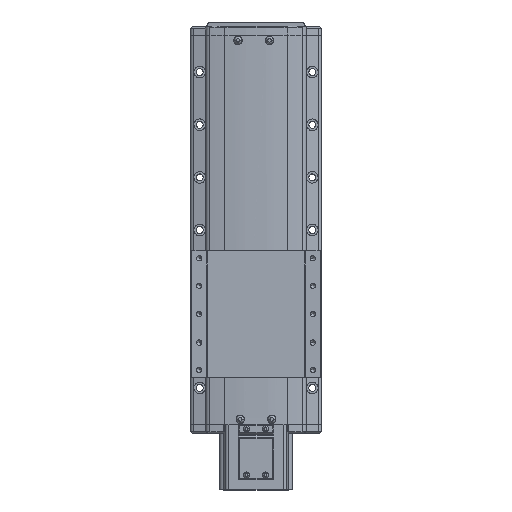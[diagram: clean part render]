
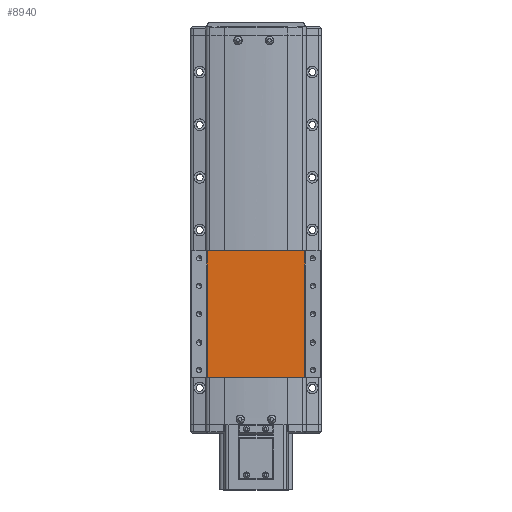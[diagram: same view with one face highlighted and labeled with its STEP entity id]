
A CAD part, top view. The second image highlights one B-rep face of the part: STEP entity #8940.
In plain terms, the highlighted planar face has unit normal (0, 0, 1).
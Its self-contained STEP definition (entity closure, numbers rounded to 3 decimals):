
#8940=ADVANCED_FACE('',(#18373),#18374,.F.);
#18373=FACE_OUTER_BOUND('',#30039,.T.);
#18374=PLANE('',#30040);
#30039=EDGE_LOOP('',(#56498,#56499,#56500,#56501));
#30040=AXIS2_PLACEMENT_3D('',#56502,#56503,#56504);
#56498=ORIENTED_EDGE('',*,*,#62130,.F.);
#56499=ORIENTED_EDGE('',*,*,#64181,.F.);
#56500=ORIENTED_EDGE('',*,*,#66803,.F.);
#56501=ORIENTED_EDGE('',*,*,#69042,.T.);
#56502=CARTESIAN_POINT('',(-300.,-7.778,36.5));
#56503=DIRECTION('',(0.,0.,-1.0));
#56504=DIRECTION('',(-1.0,0.,0.));
#62130=EDGE_CURVE('',#75009,#75011,#75012,.T.);
#64181=EDGE_CURVE('',#78294,#75009,#78296,.T.);
#66803=EDGE_CURVE('',#82086,#78294,#82088,.T.);
#69042=EDGE_CURVE('',#82086,#75011,#84864,.T.);
#75009=VERTEX_POINT('',#92786);
#75011=VERTEX_POINT('',#92788);
#75012=LINE('',#92789,#92790);
#78294=VERTEX_POINT('',#97547);
#78296=LINE('',#97549,#97550);
#82086=VERTEX_POINT('',#103071);
#82088=LINE('',#103073,#103074);
#84864=LINE('',#107247,#107248);
#92786=CARTESIAN_POINT('',(-346.376,112.222,36.5));
#92788=CARTESIAN_POINT('',(-253.624,112.222,36.5));
#92789=CARTESIAN_POINT('',(-253.624,112.222,36.5));
#92790=VECTOR('',#113103,10.0);
#97547=CARTESIAN_POINT('',(-346.376,-7.778,36.5));
#97549=CARTESIAN_POINT('',(-346.376,-7.778,36.5));
#97550=VECTOR('',#115855,10.0);
#103071=CARTESIAN_POINT('',(-253.624,-7.778,36.5));
#103073=CARTESIAN_POINT('',(-253.624,-7.778,36.5));
#103074=VECTOR('',#119400,10.0);
#107247=CARTESIAN_POINT('',(-253.624,-7.778,36.5));
#107248=VECTOR('',#121892,10.0);
#113103=DIRECTION('',(1.0,0.,0.));
#115855=DIRECTION('',(0.,1.0,0.));
#119400=DIRECTION('',(-1.0,0.,0.));
#121892=DIRECTION('',(0.,1.0,0.));
